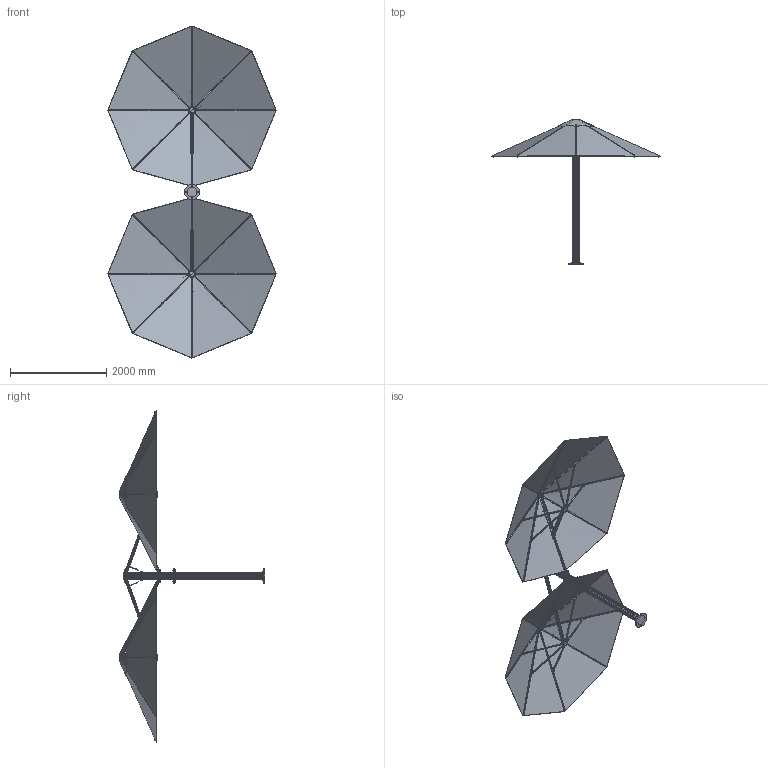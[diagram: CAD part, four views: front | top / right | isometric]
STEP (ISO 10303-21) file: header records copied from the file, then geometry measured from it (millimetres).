
FILE_DESCRIPTION (( 'STEP AP203' ), '1' );
FILE_NAME ('Unity 3.5M Octagonal Duo.STEP', '2020-06-18T22:28:59', ( '' ), ( '' ), 'SwSTEP 2.0', 'SolidWorks 2017', '' );
FILE_SCHEMA (( 'CONFIG_CONTROL_DESIGN' ));
Length unit declared in the file: millimetre
Products named in the file (48): SMP_UM - 110098; SMP_UM - 110094; SMP_UM - 110070; SMP_UM - 110102_Stretched; SMP_UM - 110063; SMP_UM - 110197; SMP_UM - 110313_Default<As Machined>; SMP_UM - 010025_Canopy Only; SMP_UM - 110175; SMP_UM - 110222; SMP_UM - 110066; SMP_UM - 110194; flat washer regular_am_B18.22M - Plain washer, 5 mm, regular; Unity 3.5M Octagonal Duo; SMP_UM - 110080; SMP_UM - 110126 (2); SMP_UM - 110096_PD; SMP_UM - 110092; socket button head cap screw_am_B18.3.4M - 5 x 0.8 x 16 SBHCS --N; SMP_UM - 110193; SMP_UM - 110131; SMP_UM - 110084; SMP_UM - 210019; SMP_UM - 110196; SMP_UM - 110123; SMP_UM - 110075; SMP_UM - 010262 _ 3.5 OCT; flat washer regular_am_B18.22M - Plain washer, 6 mm, regular; SMP_UM - 110208; SMP_UM - 110110; SMP_UM - 110174; SMP_UM - 210044 - Gastec Spring_Extended; SMP_UM - 110079; SMP_UM - 110069; SMP_UM - 110173; SMP_UM - 110085; socket button head cap screw_am_B18.3.4M - 5 x 0.8 x 20 SBHCS --N; SMP_UM - 110088; SMP_UM - 110168; SMP_UM - 110194b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
Assembly tree (68 placements, depth 4):
  Unity 3.5M Octagonal Duo
    SMP_UM - 110116
      SMP_UM - 110112_ALL HOLES
    SMP_UM - 110123
      SMP_UM - 110313_Default<As Machined>
    SMP_UM - 110222
    SMP_UM - 110126 (2)
    SMP_UM - 110117
    SMP_UM - 110065  x2
      SMP_UM - 110070
      SMP_UM - 110069
    SMP_UM - 010025_Canopy Only  x2
      SMP_UM - 110173
        SMP_UM - 110193
        SMP_UM - 110080  x2
      SMP_UM - 110174
        SMP_UM - 110194b
        SMP_UM - 110194
        SMP_UM - 110084
        socket button head cap screw_am_B18.3.4M - 5 x 0.8 x 16 SBHCS --N
        flat washer regular_am_B18.22M - Plain washer, 5 mm, regular
        SMP_UM - 110085  x2
      SMP_UM - 110064
        SMP_UM - 110092
      SMP_UM - 110063
        SMP_UM - 110092
        SMP_UM - 110093
        SMP_UM - 110094
        SMP_UM - 110110
      SMP_UM - 110208
        SMP_UM - 110196
        SMP_UM - 110089
        SMP_UM - 210019
        SMP_UM - 110088
        flat washer regular_am_B18.22M - Plain washer, 6 mm, regular
        socket button head cap screw_am_B18.3.4M - 5 x 0.8 x 20 SBHCS --N
        SMP_UM - 110131
      SMP_UM - 110175
        SMP_UM - 110197
        SMP_UM - 110089  x2
      SMP_UM - 110066
        SMP_UM - 110098
        SMP_UM - 110075
        SMP_UM - 110096_PD
        SMP_UM - 110102_Stretched
      SMP_UM - 110095
      SMP_UM - 210044 - Gastec Spring_Extended
      SMP_UM - 110168
        SMP_UM - 110075
        SMP_UM - 110079
      SMP_UM - 010262 _ 3.5 OCT
Bounding box: 3507.77 x 3017.95 x 6909.76 mm (x, y, z)
Volume: 60009857.9 mm3; surface area: 47979019 mm2
Topology: 197 solids, 207 shells, 3680 faces, 8950 edges, 5688 vertices
Faces by surface type: plane 1252, cylinder 1156, cone 580, bspline 494, torus 158, sphere 40
Entity records: 87405 total; most frequent: CARTESIAN_POINT 59552, ORIENTED_EDGE 4870, DIRECTION 4377, EDGE_CURVE 2436, AXIS2_PLACEMENT_3D 1713, VERTEX_POINT 1530, EDGE_LOOP 1045, FACE_OUTER_BOUND 997
